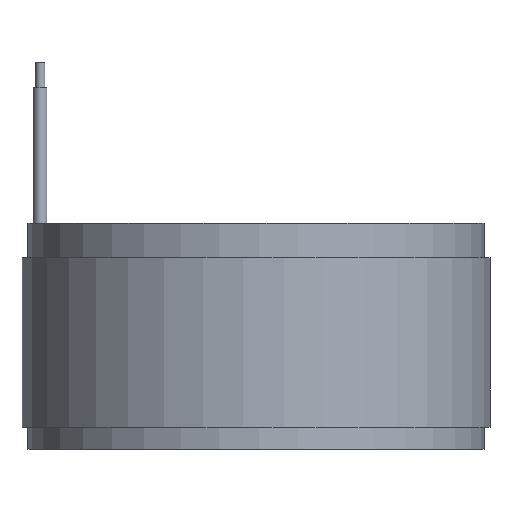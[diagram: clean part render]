
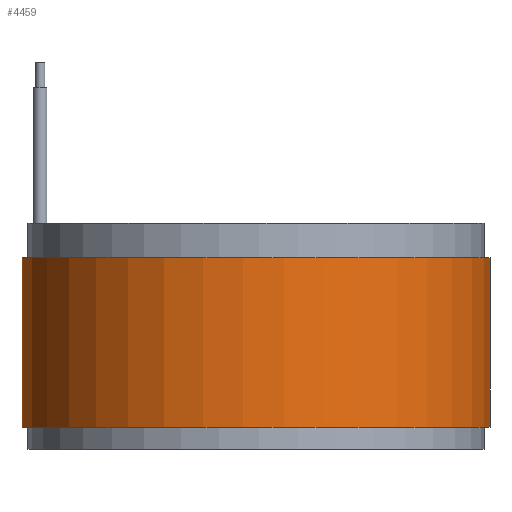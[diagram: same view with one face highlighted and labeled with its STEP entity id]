
A CAD part, front view. The second image highlights one B-rep face of the part: STEP entity #4459.
In plain terms, the highlighted cylindrical face has radius 38 mm (diameter 76 mm), a full revolution.
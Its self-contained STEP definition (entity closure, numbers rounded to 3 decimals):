
#521 = CARTESIAN_POINT ( 'NONE',  ( 27.755, -25.955, 0. ) ) ;
#3591 = AXIS2_PLACEMENT_3D ( 'NONE', #18550, #4047, #25757 ) ;
#3718 = EDGE_CURVE ( 'NONE', #14591, #14591, #29966, .T. ) ;
#4047 = DIRECTION ( 'NONE',  ( 0., 0., -1. ) ) ;
#4459 = ADVANCED_FACE ( 'NONE', ( #20584, #21031 ), #25456, .T. ) ;
#4614 = DIRECTION ( 'NONE',  ( 0.73, -0.683, 0. ) ) ;
#7295 = ORIENTED_EDGE ( 'NONE', *, *, #15910, .T. ) ;
#9789 = CIRCLE ( 'NONE', #27229, 38. ) ;
#12891 = CARTESIAN_POINT ( 'NONE',  ( 27.755, -25.955, 27.5 ) ) ;
#13532 = AXIS2_PLACEMENT_3D ( 'NONE', #14308, #23533, #4614 ) ;
#14308 = CARTESIAN_POINT ( 'NONE',  ( 0., 0., 27.5 ) ) ;
#14554 = ORIENTED_EDGE ( 'NONE', *, *, #3718, .F. ) ;
#14591 = VERTEX_POINT ( 'NONE', #12891 ) ;
#14785 = CARTESIAN_POINT ( 'NONE',  ( 0., 0., 0. ) ) ;
#15910 = EDGE_CURVE ( 'NONE', #17076, #17076, #9789, .T. ) ;
#17076 = VERTEX_POINT ( 'NONE', #521 ) ;
#18550 = CARTESIAN_POINT ( 'NONE',  ( 0., 0., 27.5 ) ) ;
#19444 = EDGE_LOOP ( 'NONE', ( #14554 ) ) ;
#20584 = FACE_OUTER_BOUND ( 'NONE', #19444, .T. ) ;
#21031 = FACE_OUTER_BOUND ( 'NONE', #23147, .T. ) ;
#23147 = EDGE_LOOP ( 'NONE', ( #7295 ) ) ;
#23533 = DIRECTION ( 'NONE',  ( 0., 0., 1. ) ) ;
#25456 = CYLINDRICAL_SURFACE ( 'NONE', #3591, 38. ) ;
#25757 = DIRECTION ( 'NONE',  ( -0.73, 0.683, 0. ) ) ;
#26810 = DIRECTION ( 'NONE',  ( 0.73, -0.683, 0. ) ) ;
#27229 = AXIS2_PLACEMENT_3D ( 'NONE', #14785, #29027, #26810 ) ;
#29027 = DIRECTION ( 'NONE',  ( 0., 0., 1. ) ) ;
#29966 = CIRCLE ( 'NONE', #13532, 38. ) ;
